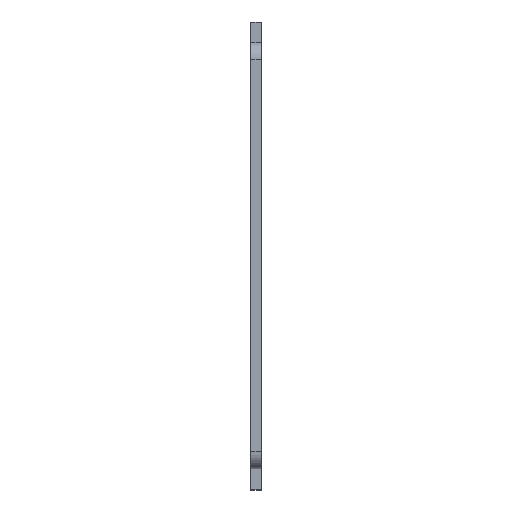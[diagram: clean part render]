
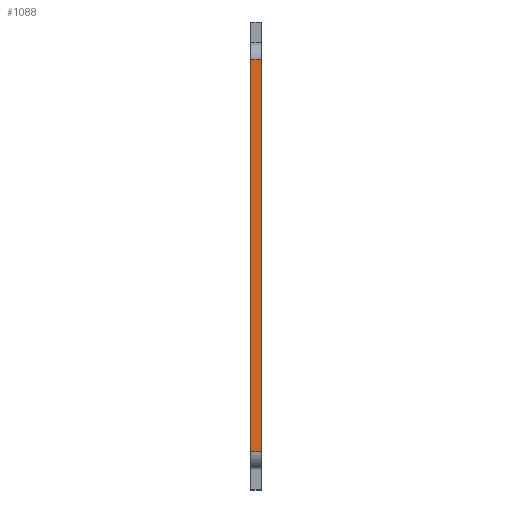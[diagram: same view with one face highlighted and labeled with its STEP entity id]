
A CAD part, top view. The second image highlights one B-rep face of the part: STEP entity #1088.
In plain terms, the highlighted planar face has unit normal (0, 0, 1).
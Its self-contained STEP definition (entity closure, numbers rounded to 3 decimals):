
#33=PLANE('',#1179);
#84=FACE_OUTER_BOUND('',#139,.T.);
#139=EDGE_LOOP('',(#818,#819,#820,#821));
#221=LINE('',#1648,#350);
#223=LINE('',#1654,#352);
#224=LINE('',#1656,#353);
#225=LINE('',#1657,#354);
#350=VECTOR('',#1347,10.);
#352=VECTOR('',#1353,10.);
#353=VECTOR('',#1354,10.);
#354=VECTOR('',#1355,10.);
#510=VERTEX_POINT('',#1645);
#511=VERTEX_POINT('',#1647);
#513=VERTEX_POINT('',#1653);
#514=VERTEX_POINT('',#1655);
#636=EDGE_CURVE('',#510,#511,#221,.T.);
#639=EDGE_CURVE('',#513,#510,#223,.T.);
#640=EDGE_CURVE('',#514,#513,#224,.T.);
#641=EDGE_CURVE('',#511,#514,#225,.T.);
#818=ORIENTED_EDGE('',*,*,#636,.F.);
#819=ORIENTED_EDGE('',*,*,#639,.F.);
#820=ORIENTED_EDGE('',*,*,#640,.F.);
#821=ORIENTED_EDGE('',*,*,#641,.F.);
#1088=ADVANCED_FACE('',(#84),#33,.T.);
#1179=AXIS2_PLACEMENT_3D('',#1652,#1351,#1352);
#1347=DIRECTION('',(-1.,0.,0.));
#1351=DIRECTION('center_axis',(0.,0.,1.));
#1352=DIRECTION('ref_axis',(0.,-1.,0.));
#1353=DIRECTION('',(0.,-1.,0.));
#1354=DIRECTION('',(1.,0.,0.));
#1355=DIRECTION('',(0.,1.,0.));
#1645=CARTESIAN_POINT('',(3.,-57.5,60.));
#1647=CARTESIAN_POINT('',(0.,-57.5,60.));
#1648=CARTESIAN_POINT('',(0.,-57.5,60.));
#1652=CARTESIAN_POINT('Origin',(0.,62.5,60.));
#1653=CARTESIAN_POINT('',(3.,57.5,60.));
#1654=CARTESIAN_POINT('',(3.,-62.5,60.));
#1655=CARTESIAN_POINT('',(0.,57.5,60.));
#1656=CARTESIAN_POINT('',(0.,57.5,60.));
#1657=CARTESIAN_POINT('',(0.,-62.5,60.));
